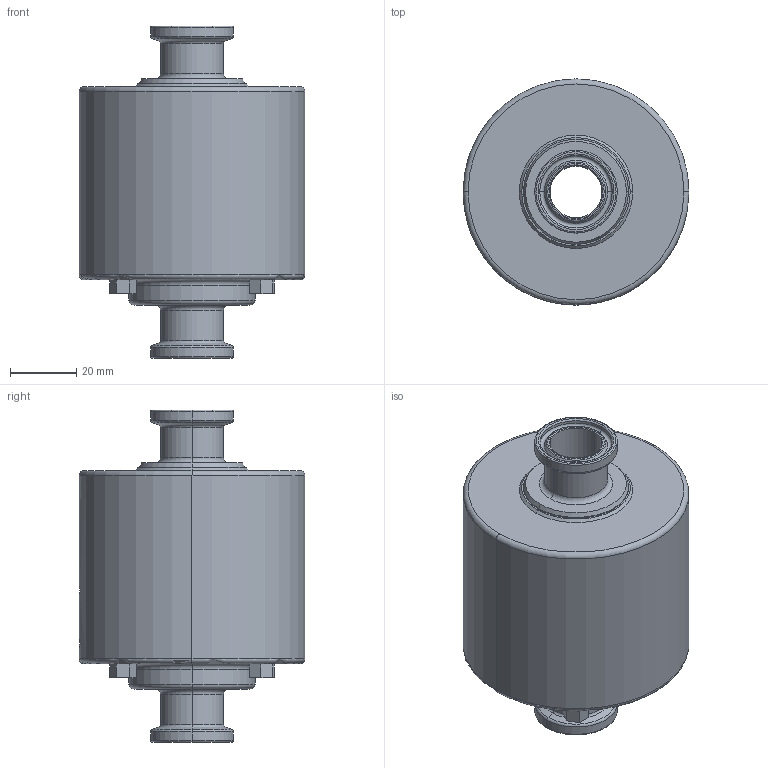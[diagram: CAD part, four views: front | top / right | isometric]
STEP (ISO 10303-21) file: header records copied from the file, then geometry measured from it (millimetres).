
FILE_DESCRIPTION (( 'STEP AP214' ), '1' );
FILE_NAME ('SCS(M)-605010.STEP', '2013-01-28T15:44:54', ( '' ), ( '' ), 'SwSTEP 2.0', 'SolidWorks 2011', '' );
FILE_SCHEMA (( 'AUTOMOTIVE_DESIGN' ));
Length unit declared in the file: inch
Products named in the file (1): SCS(M)-605010
Bounding box: 68.28 x 68.28 x 100.33 mm (x, y, z)
Volume: 213210.3 mm3; surface area: 30257.3 mm2
Topology: 1 solids, 5 shells, 143 faces, 314 edges, 180 vertices
Faces by surface type: plane 47, torus 40, cylinder 32, cone 24
Entity records: 4450 total; most frequent: CARTESIAN_POINT 754, DIRECTION 748, ORIENTED_EDGE 604, AXIS2_PLACEMENT_3D 306, EDGE_CURVE 302, VERTEX_POINT 180, CIRCLE 162, EDGE_LOOP 156
